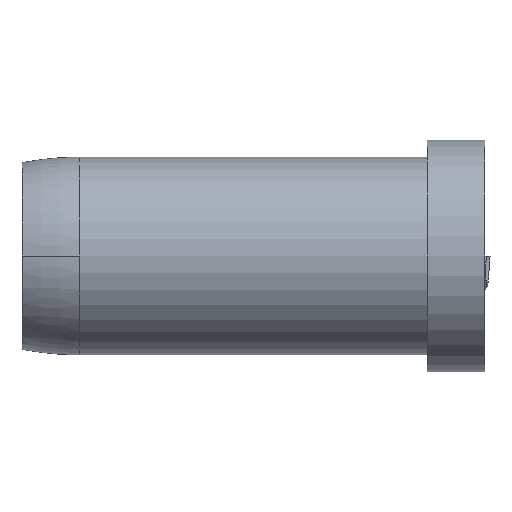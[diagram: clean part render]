
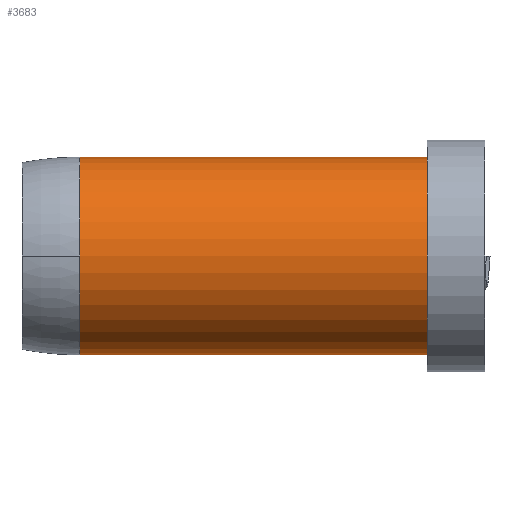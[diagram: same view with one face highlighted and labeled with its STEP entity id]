
A CAD part, front view. The second image highlights one B-rep face of the part: STEP entity #3683.
In plain terms, the highlighted cylindrical face has radius 10.858 mm (diameter 21.717 mm), a partial arc.
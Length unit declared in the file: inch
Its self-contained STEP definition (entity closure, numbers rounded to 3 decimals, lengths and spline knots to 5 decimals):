
#147 = VECTOR ( 'NONE', #1784, 39.37008 ) ;
#213 = DIRECTION ( 'NONE',  ( -1., 0., 0. ) ) ;
#292 = CARTESIAN_POINT ( 'NONE',  ( -2., -0.4275, 0. ) ) ;
#393 = CIRCLE ( 'NONE', #804, 0.4275 ) ;
#447 = VERTEX_POINT ( 'NONE', #292 ) ;
#495 = CARTESIAN_POINT ( 'NONE',  ( -2., 0., -0.4275 ) ) ;
#700 = ORIENTED_EDGE ( 'NONE', *, *, #3024, .T. ) ;
#800 = LINE ( 'NONE', #4032, #4036 ) ;
#804 = AXIS2_PLACEMENT_3D ( 'NONE', #2147, #213, #2483 ) ;
#897 = DIRECTION ( 'NONE',  ( 0., 0., 1. ) ) ;
#1159 = AXIS2_PLACEMENT_3D ( 'NONE', #3166, #1225, #897 ) ;
#1225 = DIRECTION ( 'NONE',  ( -1., 0., 0. ) ) ;
#1334 = VERTEX_POINT ( 'NONE', #4135 ) ;
#1350 = DIRECTION ( 'NONE',  ( 1., 0., 0. ) ) ;
#1548 = VERTEX_POINT ( 'NONE', #3917 ) ;
#1619 = CYLINDRICAL_SURFACE ( 'NONE', #1159, 0.4275 ) ;
#1647 = EDGE_CURVE ( 'NONE', #1692, #447, #3788, .T. ) ;
#1692 = VERTEX_POINT ( 'NONE', #3924 ) ;
#1777 = DIRECTION ( 'NONE',  ( -1., 0., 0. ) ) ;
#1784 = DIRECTION ( 'NONE',  ( -1., 0., 0. ) ) ;
#1877 = DIRECTION ( 'NONE',  ( 1., 0., 0. ) ) ;
#2147 = CARTESIAN_POINT ( 'NONE',  ( -0.5, 0., 0. ) ) ;
#2221 = EDGE_CURVE ( 'NONE', #1334, #2319, #2935, .T. ) ;
#2286 = ORIENTED_EDGE ( 'NONE', *, *, #2652, .T. ) ;
#2319 = VERTEX_POINT ( 'NONE', #495 ) ;
#2357 = ORIENTED_EDGE ( 'NONE', *, *, #3665, .T. ) ;
#2483 = DIRECTION ( 'NONE',  ( 0., 0., 1. ) ) ;
#2520 = EDGE_LOOP ( 'NONE', ( #3444, #700, #2286, #3789, #2357 ) ) ;
#2652 = EDGE_CURVE ( 'NONE', #1548, #1692, #800, .T. ) ;
#2678 = CIRCLE ( 'NONE', #4055, 0.4275 ) ;
#2935 = LINE ( 'NONE', #4039, #147 ) ;
#3024 = EDGE_CURVE ( 'NONE', #1334, #1548, #393, .T. ) ;
#3166 = CARTESIAN_POINT ( 'NONE',  ( -2.25, 0., 0. ) ) ;
#3285 = CARTESIAN_POINT ( 'NONE',  ( -2., 0., 0. ) ) ;
#3350 = AXIS2_PLACEMENT_3D ( 'NONE', #3285, #1350, #3606 ) ;
#3433 = FACE_OUTER_BOUND ( 'NONE', #2520, .T. ) ;
#3444 = ORIENTED_EDGE ( 'NONE', *, *, #2221, .F. ) ;
#3606 = DIRECTION ( 'NONE',  ( 0., 0., 1. ) ) ;
#3665 = EDGE_CURVE ( 'NONE', #447, #2319, #2678, .T. ) ;
#3683 = ADVANCED_FACE ( 'NONE', ( #3433 ), #1619, .T. ) ;
#3788 = CIRCLE ( 'NONE', #3350, 0.4275 ) ;
#3789 = ORIENTED_EDGE ( 'NONE', *, *, #1647, .T. ) ;
#3806 = CARTESIAN_POINT ( 'NONE',  ( -2., 0., 0. ) ) ;
#3917 = CARTESIAN_POINT ( 'NONE',  ( -0.5, 0., 0.4275 ) ) ;
#3924 = CARTESIAN_POINT ( 'NONE',  ( -2., 0., 0.4275 ) ) ;
#4032 = CARTESIAN_POINT ( 'NONE',  ( -2.25, 0., 0.4275 ) ) ;
#4036 = VECTOR ( 'NONE', #1777, 39.37008 ) ;
#4039 = CARTESIAN_POINT ( 'NONE',  ( -2.25, 0., -0.4275 ) ) ;
#4055 = AXIS2_PLACEMENT_3D ( 'NONE', #3806, #1877, #4132 ) ;
#4132 = DIRECTION ( 'NONE',  ( 0., 0., 1. ) ) ;
#4135 = CARTESIAN_POINT ( 'NONE',  ( -0.5, 0., -0.4275 ) ) ;
